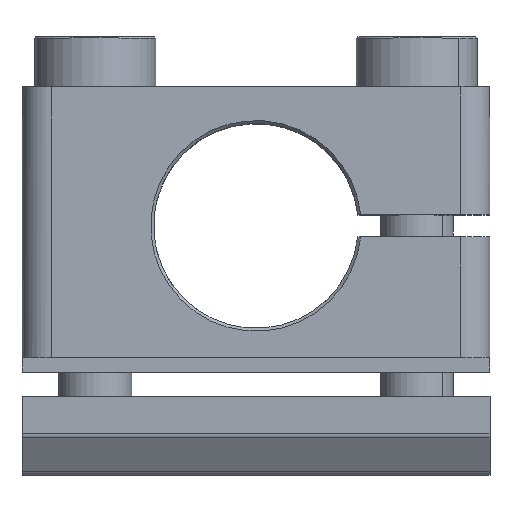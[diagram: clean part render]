
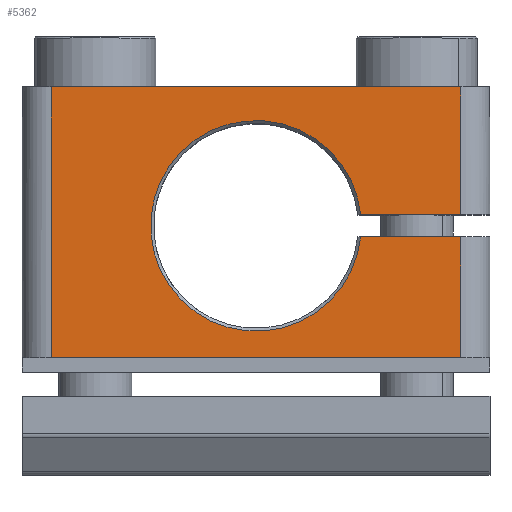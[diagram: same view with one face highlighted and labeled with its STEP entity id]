
A CAD part, top view. The second image highlights one B-rep face of the part: STEP entity #5362.
In plain terms, the highlighted planar face has unit normal (0, 0, 1).
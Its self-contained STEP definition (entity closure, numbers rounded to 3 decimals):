
#89 = CARTESIAN_POINT ( 'NONE',  ( 3.512, 2.866, 14.007 ) ) ;
#101 = DIRECTION ( 'NONE',  ( -1., 0., 0. ) ) ;
#106 = CARTESIAN_POINT ( 'NONE',  ( 17.512, -6.134, 14.007 ) ) ;
#221 = CARTESIAN_POINT ( 'NONE',  ( 17.512, 0., 14.007 ) ) ;
#374 = VECTOR ( 'NONE', #6979, 1000. ) ;
#664 = AXIS2_PLACEMENT_3D ( 'NONE', #1282, #1967, #5043 ) ;
#839 = DIRECTION ( 'NONE',  ( 1., 0., 0. ) ) ;
#868 = CIRCLE ( 'NONE', #7220, 7.2 ) ;
#883 = VECTOR ( 'NONE', #4831, 1000. ) ;
#1223 = LINE ( 'NONE', #3071, #5393 ) ;
#1282 = CARTESIAN_POINT ( 'NONE',  ( 0., 0., 14.007 ) ) ;
#1478 = LINE ( 'NONE', #1725, #883 ) ;
#1725 = CARTESIAN_POINT ( 'NONE',  ( 10.471, 3.616, 14.007 ) ) ;
#1786 = CARTESIAN_POINT ( 'NONE',  ( 17.512, 3.616, 14.007 ) ) ;
#1967 = DIRECTION ( 'NONE',  ( 0., 0., 1. ) ) ;
#2008 = CARTESIAN_POINT ( 'NONE',  ( 17.512, 0., 14.007 ) ) ;
#2028 = EDGE_CURVE ( 'NONE', #7058, #3172, #2061, .T. ) ;
#2039 = CARTESIAN_POINT ( 'NONE',  ( 17.512, 12.366, 14.007 ) ) ;
#2061 = LINE ( 'NONE', #2008, #6702 ) ;
#2099 = ORIENTED_EDGE ( 'NONE', *, *, #7311, .T. ) ;
#2283 = CARTESIAN_POINT ( 'NONE',  ( 10.673, 2.116, 14.007 ) ) ;
#2773 = ORIENTED_EDGE ( 'NONE', *, *, #9451, .T. ) ;
#2774 = VECTOR ( 'NONE', #4602, 1000. ) ;
#2813 = EDGE_CURVE ( 'NONE', #3172, #6382, #8455, .T. ) ;
#2937 = VERTEX_POINT ( 'NONE', #1786 ) ;
#2969 = ORIENTED_EDGE ( 'NONE', *, *, #5080, .T. ) ;
#3071 = CARTESIAN_POINT ( 'NONE',  ( 19.512, -6.134, 14.007 ) ) ;
#3086 = VECTOR ( 'NONE', #8980, 1000. ) ;
#3172 = VERTEX_POINT ( 'NONE', #8923 ) ;
#3975 = CARTESIAN_POINT ( 'NONE',  ( -10.488, 12.366, 14.007 ) ) ;
#4236 = VERTEX_POINT ( 'NONE', #2039 ) ;
#4386 = CARTESIAN_POINT ( 'NONE',  ( 19.512, 12.366, 14.007 ) ) ;
#4404 = ORIENTED_EDGE ( 'NONE', *, *, #7875, .T. ) ;
#4602 = DIRECTION ( 'NONE',  ( -1., 0., 0. ) ) ;
#4831 = DIRECTION ( 'NONE',  ( 1., 0., 0. ) ) ;
#5002 = EDGE_CURVE ( 'NONE', #7058, #9536, #1223, .T. ) ;
#5029 = FACE_OUTER_BOUND ( 'NONE', #6330, .T. ) ;
#5043 = DIRECTION ( 'NONE',  ( 1., 0., 0. ) ) ;
#5080 = EDGE_CURVE ( 'NONE', #2937, #4236, #5871, .T. ) ;
#5120 = VECTOR ( 'NONE', #8602, 1000. ) ;
#5180 = PLANE ( 'NONE',  #664 ) ;
#5299 = DIRECTION ( 'NONE',  ( 0., 0., -1. ) ) ;
#5362 = ADVANCED_FACE ( 'NONE', ( #5029 ), #5180, .T. ) ;
#5393 = VECTOR ( 'NONE', #101, 1000. ) ;
#5871 = LINE ( 'NONE', #221, #374 ) ;
#5872 = ORIENTED_EDGE ( 'NONE', *, *, #2813, .T. ) ;
#6309 = EDGE_CURVE ( 'NONE', #4236, #8477, #6885, .T. ) ;
#6330 = EDGE_LOOP ( 'NONE', ( #8181, #2773, #8814, #9105, #5872, #4404, #2099, #2969 ) ) ;
#6382 = VERTEX_POINT ( 'NONE', #2283 ) ;
#6702 = VECTOR ( 'NONE', #9753, 1000. ) ;
#6853 = CARTESIAN_POINT ( 'NONE',  ( 19.512, 2.116, 14.007 ) ) ;
#6885 = LINE ( 'NONE', #4386, #3086 ) ;
#6979 = DIRECTION ( 'NONE',  ( 0., 1., 0. ) ) ;
#7058 = VERTEX_POINT ( 'NONE', #106 ) ;
#7220 = AXIS2_PLACEMENT_3D ( 'NONE', #89, #5299, #839 ) ;
#7311 = EDGE_CURVE ( 'NONE', #9685, #2937, #1478, .T. ) ;
#7528 = CARTESIAN_POINT ( 'NONE',  ( 10.673, 3.616, 14.007 ) ) ;
#7875 = EDGE_CURVE ( 'NONE', #6382, #9685, #868, .T. ) ;
#8181 = ORIENTED_EDGE ( 'NONE', *, *, #6309, .T. ) ;
#8455 = LINE ( 'NONE', #6853, #2774 ) ;
#8477 = VERTEX_POINT ( 'NONE', #3975 ) ;
#8523 = CARTESIAN_POINT ( 'NONE',  ( -10.488, -6.134, 14.007 ) ) ;
#8569 = CARTESIAN_POINT ( 'NONE',  ( -10.488, 0., 14.007 ) ) ;
#8602 = DIRECTION ( 'NONE',  ( 0., -1., 0. ) ) ;
#8814 = ORIENTED_EDGE ( 'NONE', *, *, #5002, .F. ) ;
#8923 = CARTESIAN_POINT ( 'NONE',  ( 17.512, 2.116, 14.007 ) ) ;
#8980 = DIRECTION ( 'NONE',  ( -1., 0., 0. ) ) ;
#9105 = ORIENTED_EDGE ( 'NONE', *, *, #2028, .T. ) ;
#9354 = LINE ( 'NONE', #8569, #5120 ) ;
#9451 = EDGE_CURVE ( 'NONE', #8477, #9536, #9354, .T. ) ;
#9536 = VERTEX_POINT ( 'NONE', #8523 ) ;
#9685 = VERTEX_POINT ( 'NONE', #7528 ) ;
#9753 = DIRECTION ( 'NONE',  ( 0., 1., 0. ) ) ;
